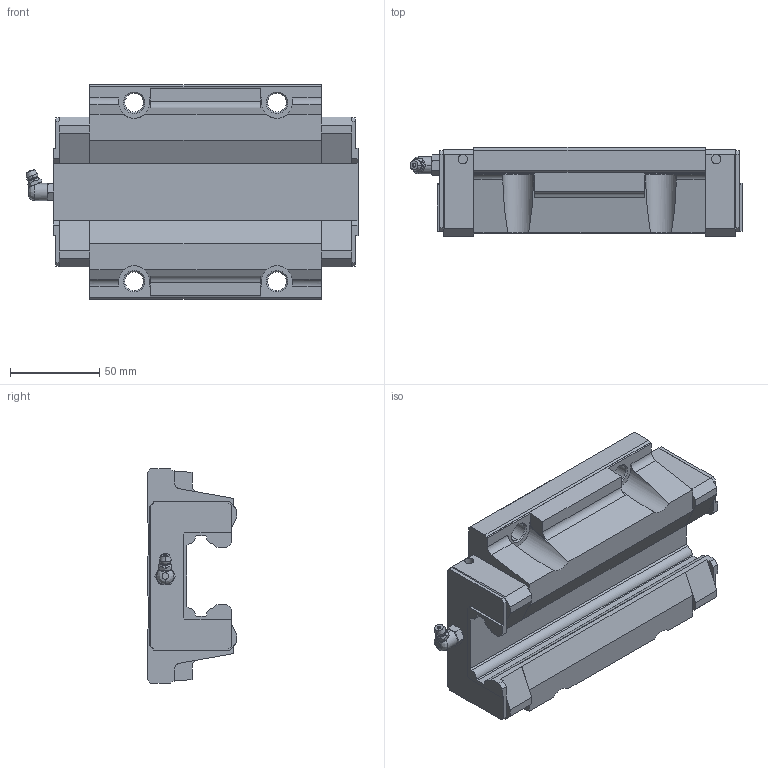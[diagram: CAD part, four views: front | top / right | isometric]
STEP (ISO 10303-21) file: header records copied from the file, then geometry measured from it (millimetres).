
FILE_DESCRIPTION (( 'STEP AP203' ), '1' );
FILE_NAME ('HSR45LC_SW2020.STEP', '2020-06-02T18:21:30', ( '' ), ( '' ), 'SwSTEP 2.0', 'SolidWorks 2020', '' );
FILE_SCHEMA (( 'CONFIG_CONTROL_DESIGN' ));
Length unit declared in the file: millimetre
Products named in the file (1): HSR45LC_SW2020
Bounding box: 186 x 50 x 120 mm (x, y, z)
Volume: 603324.6 mm3; surface area: 73981 mm2
Topology: 2 solids, 2 shells, 253 faces, 684 edges, 434 vertices
Faces by surface type: plane 163, cone 40, cylinder 38, torus 6, sphere 4, bspline 2
Entity records: 8690 total; most frequent: CARTESIAN_POINT 2279, ORIENTED_EDGE 1356, DIRECTION 1280, EDGE_CURVE 678, LINE 476, VECTOR 476, VERTEX_POINT 434, AXIS2_PLACEMENT_3D 402
